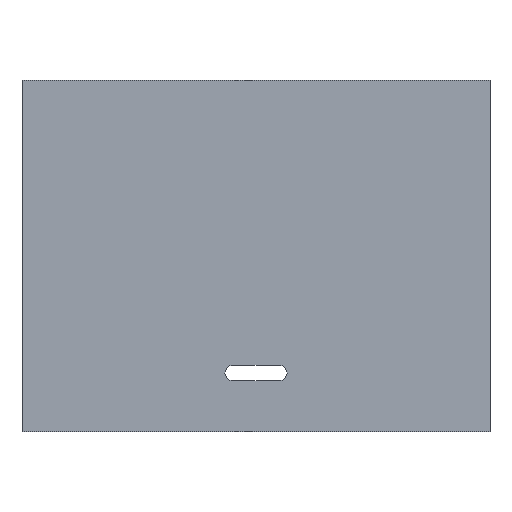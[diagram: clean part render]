
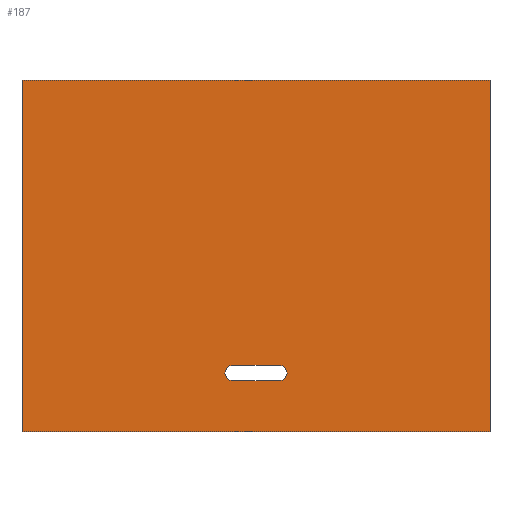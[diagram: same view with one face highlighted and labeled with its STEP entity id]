
A CAD part, front view. The second image highlights one B-rep face of the part: STEP entity #187.
In plain terms, the highlighted planar face has unit normal (0, -1, 0).
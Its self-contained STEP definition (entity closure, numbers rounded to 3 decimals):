
#24=CIRCLE('',#213,3.25);
#25=CIRCLE('',#214,3.25);
#34=ORIENTED_EDGE('',*,*,#82,.T.);
#35=ORIENTED_EDGE('',*,*,#83,.T.);
#36=ORIENTED_EDGE('',*,*,#84,.T.);
#37=ORIENTED_EDGE('',*,*,#85,.T.);
#38=ORIENTED_EDGE('',*,*,#86,.T.);
#39=ORIENTED_EDGE('',*,*,#87,.T.);
#40=ORIENTED_EDGE('',*,*,#88,.T.);
#41=ORIENTED_EDGE('',*,*,#89,.T.);
#82=EDGE_CURVE('',#106,#107,#120,.T.);
#83=EDGE_CURVE('',#107,#108,#121,.T.);
#84=EDGE_CURVE('',#108,#109,#122,.T.);
#85=EDGE_CURVE('',#109,#106,#123,.T.);
#86=EDGE_CURVE('',#110,#111,#124,.T.);
#87=EDGE_CURVE('',#111,#112,#24,.T.);
#88=EDGE_CURVE('',#112,#113,#125,.T.);
#89=EDGE_CURVE('',#113,#110,#25,.T.);
#106=VERTEX_POINT('',#293);
#107=VERTEX_POINT('',#294);
#108=VERTEX_POINT('',#296);
#109=VERTEX_POINT('',#298);
#110=VERTEX_POINT('',#301);
#111=VERTEX_POINT('',#302);
#112=VERTEX_POINT('',#304);
#113=VERTEX_POINT('',#306);
#120=LINE('',#292,#140);
#121=LINE('',#295,#141);
#122=LINE('',#297,#142);
#123=LINE('',#299,#143);
#124=LINE('',#300,#144);
#125=LINE('',#305,#145);
#140=VECTOR('',#239,1000.);
#141=VECTOR('',#240,1000.);
#142=VECTOR('',#241,1000.);
#143=VECTOR('',#242,1000.);
#144=VECTOR('',#243,1000.);
#145=VECTOR('',#246,1000.);
#156=EDGE_LOOP('',(#34,#35,#36,#37));
#157=EDGE_LOOP('',(#38,#39,#40,#41));
#168=FACE_BOUND('',#156,.T.);
#169=FACE_BOUND('',#157,.T.);
#179=PLANE('',#212);
#187=ADVANCED_FACE('',(#168,#169),#179,.T.);
#212=AXIS2_PLACEMENT_3D('',#291,#237,#238);
#213=AXIS2_PLACEMENT_3D('',#303,#244,#245);
#214=AXIS2_PLACEMENT_3D('',#307,#247,#248);
#237=DIRECTION('',(0.,-1.,0.));
#238=DIRECTION('',(0.,0.,-1.));
#239=DIRECTION('',(0.,0.,-1.));
#240=DIRECTION('',(1.,0.,0.));
#241=DIRECTION('',(0.,0.,1.));
#242=DIRECTION('',(-1.,0.,0.));
#243=DIRECTION('',(1.,0.,0.));
#244=DIRECTION('',(0.,1.,0.));
#245=DIRECTION('',(-1.,0.,0.));
#246=DIRECTION('',(-1.,0.,0.));
#247=DIRECTION('',(0.,1.,0.));
#248=DIRECTION('',(1.,0.,0.));
#291=CARTESIAN_POINT('',(0.,0.,0.));
#292=CARTESIAN_POINT('',(-294.57,0.,110.874));
#293=CARTESIAN_POINT('',(-294.57,0.,110.874));
#294=CARTESIAN_POINT('',(-294.57,0.,-39.126));
#295=CARTESIAN_POINT('',(-294.57,0.,-39.126));
#296=CARTESIAN_POINT('',(-94.57,0.,-39.126));
#297=CARTESIAN_POINT('',(-94.57,0.,-39.126));
#298=CARTESIAN_POINT('',(-94.57,0.,110.874));
#299=CARTESIAN_POINT('',(-94.57,0.,110.874));
#300=CARTESIAN_POINT('',(-204.57,0.,-10.876));
#301=CARTESIAN_POINT('',(-204.57,0.,-10.876));
#302=CARTESIAN_POINT('',(-184.57,0.,-10.876));
#303=CARTESIAN_POINT('',(-184.57,0.,-14.126));
#304=CARTESIAN_POINT('',(-184.57,0.,-17.376));
#305=CARTESIAN_POINT('',(-184.57,0.,-17.376));
#306=CARTESIAN_POINT('',(-204.57,0.,-17.376));
#307=CARTESIAN_POINT('',(-204.57,0.,-14.126));
